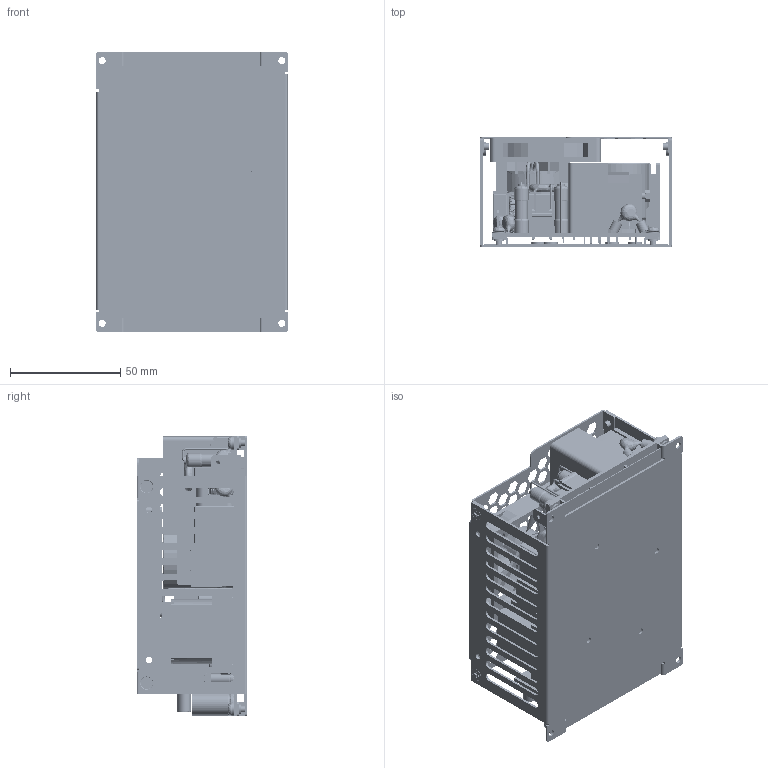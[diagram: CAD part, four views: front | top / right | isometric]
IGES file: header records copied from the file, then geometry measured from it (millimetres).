
Start section: SolidWorks IGES file using analytic representation for surfaces
Global section: file name: C:\Users\ksmith\Desktop\ECH450\ECH450PS36_56-TF\ECH450PS36_56-TF.IGS; native system: SolidWorks 2018; preprocessor: SolidWorks 2018; author: ksmith; date: 200407.100124; units: inch
Bounding box: 86.6 x 50 x 127 mm (x, y, z)
Surface area: 176974.1 mm2 (no closed solid volume)
Topology: 0 solids, 0 shells, 5103 faces, 45406 edges, 45351 vertices
Faces by surface type: bspline 4170, revolution 933
